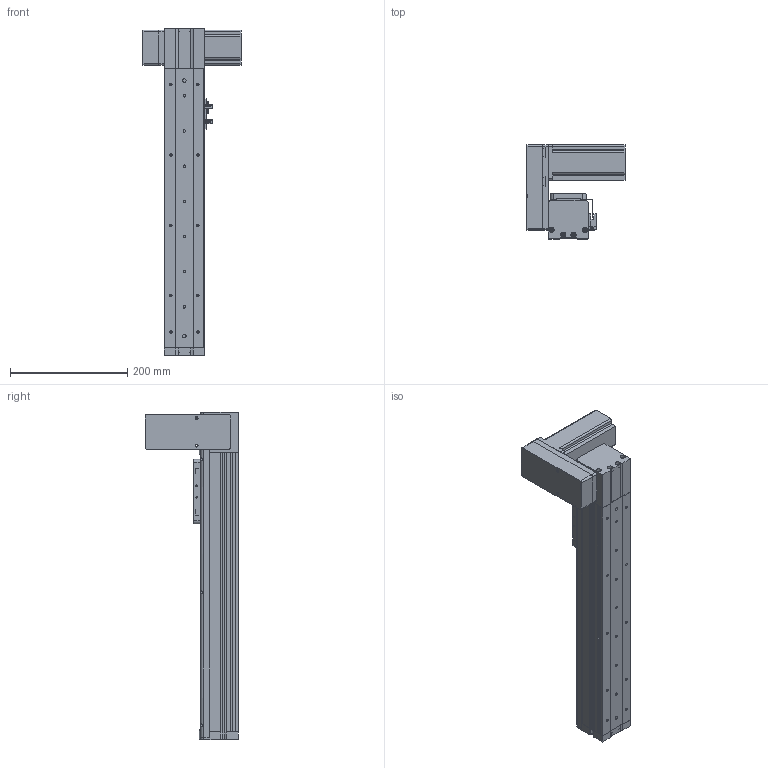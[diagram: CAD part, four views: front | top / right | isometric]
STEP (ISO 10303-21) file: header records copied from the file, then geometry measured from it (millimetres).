
FILE_DESCRIPTION (( 'STEP AP214' ), '1' );
FILE_NAME ('KSD68BS-S300-MRU-CR.STEP', '2019-08-28T05:58:48', ( '微软用户' ), ( '微软中国' ), 'SwSTEP 2.0', 'SolidWorks 2014', '' );
FILE_SCHEMA (( 'AUTOMOTIVE_DESIGN' ));
Length unit declared in the file: millimetre
Products named in the file (14): 68宽单导轨全封闭丝杆传动安装板1防护罩; KSD68BS 300行程侧板全封闭; 68宽单导轨全封闭同步带端板; 68单导轨全封闭同步带电机座右; 68单导轨全封闭同步带安装板; 悵誘欶奻狟殏; 68宽马达安装板连板上折同步带; 感应片68宽全封闭; U倰嫖萇EEㄜSX672; 68遵裔啣揤啣1; 台达ECMA－C20604AS伺服电机（400W); KSD68BS 300行程底板全封闭; KSD68BS 300行程盖板全封闭; KSD68BS-S300-MRU-CR
Assembly tree (16 placements, depth 2):
  KSD68BS-S300-MRU-CR
    KSD68BS 300行程底板全封闭
    台达ECMA－C20604AS伺服电机（400W)
    U倰嫖萇EEㄜSX672  x2
    感应片68宽全封闭
    68宽马达安装板连板上折同步带
    悵誘欶奻狟殏
    68单导轨全封闭同步带安装板
    68单导轨全封闭同步带电机座右
    68宽单导轨全封闭同步带端板
    KSD68BS 300行程侧板全封闭  x2
    68宽单导轨全封闭丝杆传动安装板1防护罩
    68遵裔啣揤啣1  x2
    KSD68BS 300行程盖板全封闭
Bounding box: 167.2 x 159.5 x 558.1 mm (x, y, z)
Volume: 1592654.1 mm3; surface area: 525090.9 mm2
Topology: 17 solids, 17 shells, 1270 faces, 3569 edges, 2289 vertices
Faces by surface type: cylinder 585, plane 553, cone 132
Entity records: 42234 total; most frequent: CARTESIAN_POINT 7054, DIRECTION 6405, ORIENTED_EDGE 6138, EDGE_CURVE 3069, AXIS2_PLACEMENT_3D 2274, VERTEX_POINT 2015, LINE 1857, VECTOR 1857
